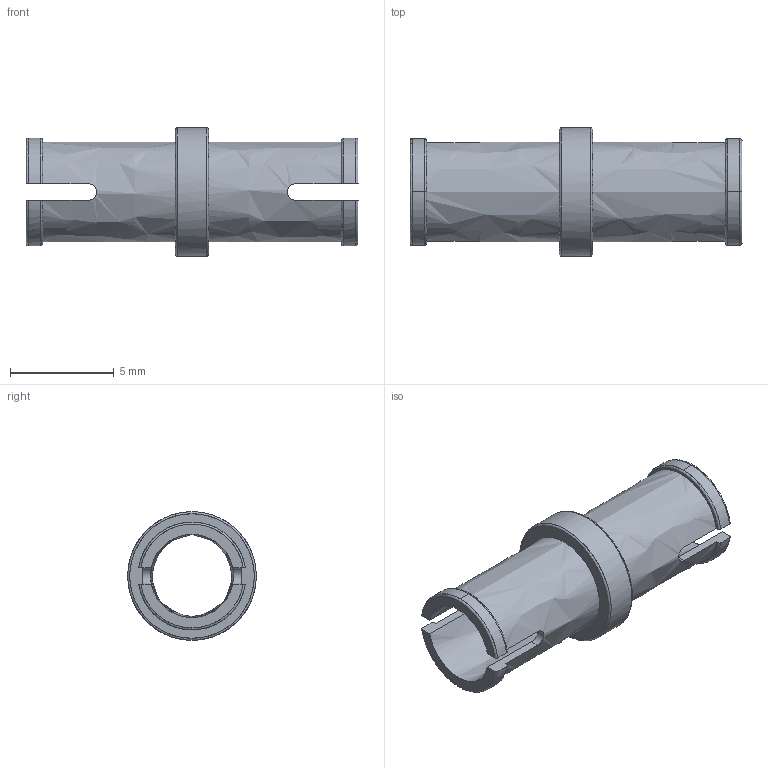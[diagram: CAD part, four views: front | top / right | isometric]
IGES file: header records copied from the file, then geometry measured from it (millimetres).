
Start section: C
Global section: file name: ClGray_4211807_MCM.iges; native system: By Siemens PLM Incorporated; preprocessor: XPlus GENERIC/IGES 26.1.183; author: Author; organization: Title; date: 20250721.235334; units: millimetre
Bounding box: 16 x 6.2 x 6.2 mm (x, y, z)
Surface area: 485.3 mm2 (no closed solid volume)
Topology: 0 solids, 0 shells, 46 faces, 396 edges, 396 vertices
Faces by surface type: bspline 46
